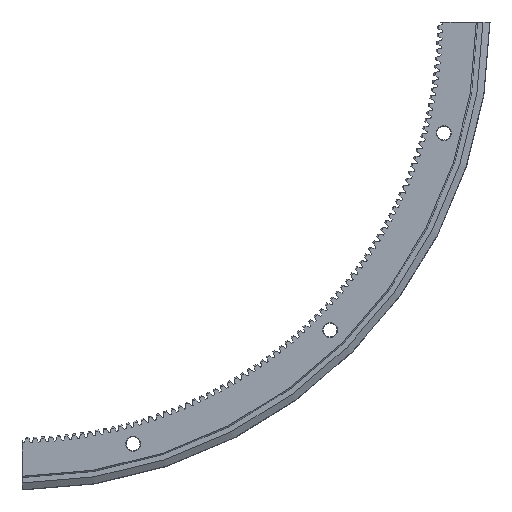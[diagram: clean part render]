
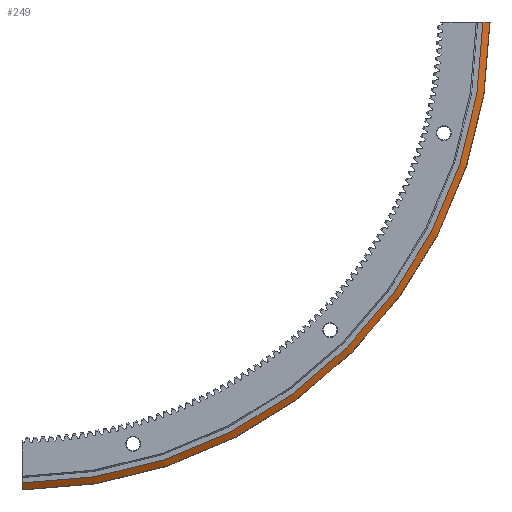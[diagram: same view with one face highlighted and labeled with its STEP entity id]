
A CAD part, front view. The second image highlights one B-rep face of the part: STEP entity #249.
In plain terms, the highlighted conical face has half-angle 55 degrees and reference radius 185.157 mm.
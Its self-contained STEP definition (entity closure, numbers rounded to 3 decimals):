
#249 = ADVANCED_FACE( '', ( #869 ), #870, .T. );
#869 = FACE_OUTER_BOUND( '', #1771, .T. );
#870 = CONICAL_SURFACE( '', #1772, 185.157, 0.96 );
#1771 = EDGE_LOOP( '', ( #4050, #4051, #4052, #4053 ) );
#1772 = AXIS2_PLACEMENT_3D( '', #4054, #4055, #4056 );
#4050 = ORIENTED_EDGE( '', *, *, #7273, .T. );
#4051 = ORIENTED_EDGE( '', *, *, #7274, .T. );
#4052 = ORIENTED_EDGE( '', *, *, #7275, .F. );
#4053 = ORIENTED_EDGE( '', *, *, #7081, .T. );
#4054 = CARTESIAN_POINT( '', ( 0., 7.75, 0. ) );
#4055 = DIRECTION( '', ( 0., 1., 0. ) );
#4056 = DIRECTION( '', ( 0., 0., 1. ) );
#7081 = EDGE_CURVE( '', #9216, #9214, #9217, .T. );
#7273 = EDGE_CURVE( '', #9214, #9423, #9424, .T. );
#7274 = EDGE_CURVE( '', #9423, #9425, #9426, .T. );
#7275 = EDGE_CURVE( '', #9216, #9425, #9427, .T. );
#9214 = VERTEX_POINT( '', #12552 );
#9216 = VERTEX_POINT( '', #12563 );
#9217 = B_SPLINE_CURVE_WITH_KNOTS( '', 3, ( #12564, #12565, #12566, #12567 ), .UNSPECIFIED., .F., .F., ( 4, 4 ), ( 0.102, 0.105 ), .UNSPECIFIED. );
#9423 = VERTEX_POINT( '', #12789 );
#9424 = CIRCLE( '', #12790, 187.785 );
#9425 = VERTEX_POINT( '', #12791 );
#9426 = B_SPLINE_CURVE_WITH_KNOTS( '', 3, ( #12792, #12793, #12794, #12795 ), .UNSPECIFIED., .F., .F., ( 4, 4 ), ( 0.169, 0.172 ), .UNSPECIFIED. );
#9427 = CIRCLE( '', #12796, 185.157 );
#12552 = CARTESIAN_POINT( '', ( 1., 9.59, -187.782 ) );
#12563 = CARTESIAN_POINT( '', ( 1., 7.75, -185.154 ) );
#12564 = CARTESIAN_POINT( '', ( 1., 7.75, -185.154 ) );
#12565 = CARTESIAN_POINT( '', ( 1., 8.363, -186.03 ) );
#12566 = CARTESIAN_POINT( '', ( 1., 8.977, -186.906 ) );
#12567 = CARTESIAN_POINT( '', ( 1., 9.59, -187.782 ) );
#12789 = CARTESIAN_POINT( '', ( 187.782, 9.59, -1. ) );
#12790 = AXIS2_PLACEMENT_3D( '', #14320, #14321, #14322 );
#12791 = CARTESIAN_POINT( '', ( 185.154, 7.75, -1. ) );
#12792 = CARTESIAN_POINT( '', ( 187.782, 9.59, -1. ) );
#12793 = CARTESIAN_POINT( '', ( 186.906, 8.977, -1. ) );
#12794 = CARTESIAN_POINT( '', ( 186.03, 8.363, -1. ) );
#12795 = CARTESIAN_POINT( '', ( 185.154, 7.75, -1. ) );
#12796 = AXIS2_PLACEMENT_3D( '', #14323, #14324, #14325 );
#14320 = CARTESIAN_POINT( '', ( 0., 9.59, 0. ) );
#14321 = DIRECTION( '', ( 0., -1., 0. ) );
#14322 = DIRECTION( '', ( 0., 0., -1. ) );
#14323 = CARTESIAN_POINT( '', ( 0., 7.75, 0. ) );
#14324 = DIRECTION( '', ( 0., -1., 0. ) );
#14325 = DIRECTION( '', ( 0., 0., -1. ) );
